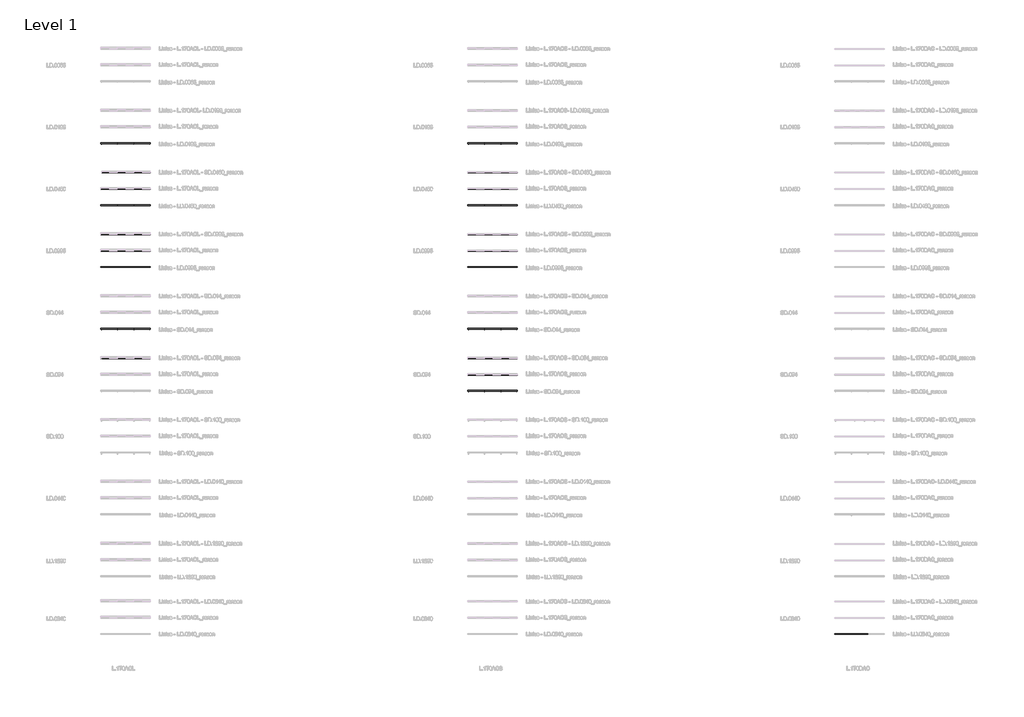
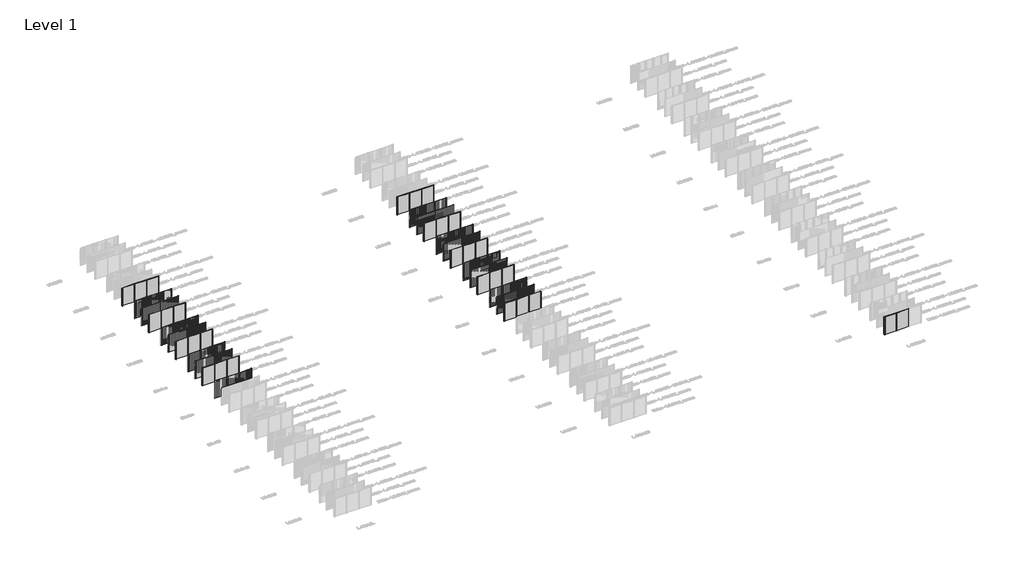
# One storey, part 2 of 121: 69 members, 60 plates.
"""IFC4 building model written with IfcOpenShell, lengths in millimetres."""

from ifc_helpers import new_model, si_unit, origin, origin_with_axes, place, context, project, spatial, polyline, outline, extrude, transform, mapped, element, save
from components import rectangular_mullion_e1f482b2, rectangular_mullion_21e3ddae, rectangular_mullion_fb497acc, rectangular_mullion_3facce28, rectangular_mullion_6cf2c509, rectangular_mullion_82152e2f, rectangular_mullion_146f339b, rectangular_mullion_aa1047c5, rectangular_mullion_c2c7736a, rectangular_mullion_35b0a916, rectangular_mullion_bd250e2e, rectangular_mullion_7b49c8f1, rectangular_mullion_2b84ad7e, rectangular_mullion_0fd695e7, rectangular_mullion_9b796d85, rectangular_mullion_dfb17e98, rectangular_mullion_aaa1fb1b, rectangular_mullion_ac71f9c1, empty_system_panel_empty_90a97279

model = new_model("IFC4")

# Units and contexts
model_context = context("Model", 3, world=origin())
ifc_project = project(units=[si_unit("LENGTHUNIT", "METRE", prefix="MILLI")], contexts=[model_context])

# Site, building, storey
site = spatial("IfcSite", under=ifc_project)
building = spatial("IfcBuilding", under=site)
storey = spatial("IfcBuildingStorey", under=building, Name="Level 1", Elevation=0.0)

# Members
placement = place(None, origin())
rectangular_mullion_shape = rectangular_mullion_e1f482b2(model_context)
element("IfcMember", 1, ObjectType="Rectangular Mullion : LD.0195_renson", at=placement, inside=storey, context=model_context, shape_type="MappedRepresentation", body=[
    mapped(rectangular_mullion_shape, transform((4466.6208097, 62481.0540136, 0.0), x_axis=(-1.0, 0.0, 0.0), y_axis=(0.0, 1.0, 0.0), z_axis=(0.0, 0.0, -1.0))),
])
element("IfcMember", 2, ObjectType="Rectangular Mullion : LD.0195_renson", at=placement, inside=storey, context=model_context, shape_type="MappedRepresentation", body=[
    mapped(rectangular_mullion_shape, transform((2466.6208097, 62481.0540136, 0.0), x_axis=(-1.0, 0.0, 0.0), y_axis=(0.0, 1.0, 0.0), z_axis=(0.0, 0.0, -1.0))),
])
element("IfcMember", 3, ObjectType="Rectangular Mullion : LD.0195_renson", at=placement, inside=storey, context=model_context, shape_type="MappedRepresentation", body=[
    mapped(rectangular_mullion_shape, transform((48966.6208097, 62481.0540136, 0.0), x_axis=(-1.0, 0.0, 0.0), y_axis=(0.0, 1.0, 0.0), z_axis=(0.0, 0.0, -1.0))),
])
element("IfcMember", 4, ObjectType="Rectangular Mullion : LD.0195_renson", at=placement, inside=storey, context=model_context, shape_type="MappedRepresentation", body=[
    mapped(rectangular_mullion_shape, transform((46966.6208097, 62481.0540136, 0.0), x_axis=(-1.0, 0.0, 0.0), y_axis=(0.0, 1.0, 0.0), z_axis=(0.0, 0.0, -1.0))),
])
rectangular_mullion_2_shape = rectangular_mullion_21e3ddae(model_context)
element("IfcMember", 5, ObjectType="Rectangular Mullion : LD.0460_renson", at=placement, inside=storey, context=model_context, shape_type="MappedRepresentation", body=[
    mapped(rectangular_mullion_2_shape, transform((4466.6208097, 58981.0540136, 0.0), x_axis=(-1.0, 0.0, 0.0), y_axis=(0.0, 1.0, 0.0), z_axis=(0.0, 0.0, -1.0))),
])
element("IfcMember", 6, ObjectType="Rectangular Mullion : LD.0460_renson", at=placement, inside=storey, context=model_context, shape_type="MappedRepresentation", body=[
    mapped(rectangular_mullion_2_shape, transform((2466.6208097, 58981.0540136, 0.0), x_axis=(-1.0, 0.0, 0.0), y_axis=(0.0, 1.0, 0.0), z_axis=(0.0, 0.0, -1.0))),
])
element("IfcMember", 7, ObjectType="Rectangular Mullion : LD.0460_renson", at=placement, inside=storey, context=model_context, shape_type="MappedRepresentation", body=[
    mapped(rectangular_mullion_2_shape, transform((4466.6208097, 54981.0540136, 0.0), x_axis=(-1.0, 0.0, 0.0), y_axis=(0.0, 1.0, 0.0), z_axis=(0.0, 0.0, -1.0))),
])
element("IfcMember", 8, ObjectType="Rectangular Mullion : LD.0460_renson", at=placement, inside=storey, context=model_context, shape_type="MappedRepresentation", body=[
    mapped(rectangular_mullion_2_shape, transform((2466.6208097, 54981.0540136, 0.0), x_axis=(-1.0, 0.0, 0.0), y_axis=(0.0, 1.0, 0.0), z_axis=(0.0, 0.0, -1.0))),
])
element("IfcMember", 9, ObjectType="Rectangular Mullion : LD.0460_renson", at=placement, inside=storey, context=model_context, shape_type="MappedRepresentation", body=[
    mapped(rectangular_mullion_2_shape, transform((48966.6208097, 58981.0540136, 0.0), x_axis=(-1.0, 0.0, 0.0), y_axis=(0.0, 1.0, 0.0), z_axis=(0.0, 0.0, -1.0))),
])
element("IfcMember", 10, ObjectType="Rectangular Mullion : LD.0460_renson", at=placement, inside=storey, context=model_context, shape_type="MappedRepresentation", body=[
    mapped(rectangular_mullion_2_shape, transform((46966.6208097, 58981.0540136, 0.0), x_axis=(-1.0, 0.0, 0.0), y_axis=(0.0, 1.0, 0.0), z_axis=(0.0, 0.0, -1.0))),
])
element("IfcMember", 11, ObjectType="Rectangular Mullion : LD.0460_renson", at=placement, inside=storey, context=model_context, shape_type="MappedRepresentation", body=[
    mapped(rectangular_mullion_2_shape, transform((48966.6208097, 54981.0540136, 0.0), x_axis=(-1.0, 0.0, 0.0), y_axis=(0.0, 1.0, 0.0), z_axis=(0.0, 0.0, -1.0))),
])
element("IfcMember", 12, ObjectType="Rectangular Mullion : LD.0460_renson", at=placement, inside=storey, context=model_context, shape_type="MappedRepresentation", body=[
    mapped(rectangular_mullion_2_shape, transform((46966.6208097, 54981.0540136, 0.0), x_axis=(-1.0, 0.0, 0.0), y_axis=(0.0, 1.0, 0.0), z_axis=(0.0, 0.0, -1.0))),
])
rectangular_mullion_3_shape = rectangular_mullion_fb497acc(model_context)
element("IfcMember", 13, ObjectType="Rectangular Mullion : LD.0995_renson", at=placement, inside=storey, context=model_context, shape_type="MappedRepresentation", body=[
    mapped(rectangular_mullion_3_shape, transform((4466.6208097, 51481.0540136, 0.0), x_axis=(-1.0, 0.0, 0.0), y_axis=(0.0, 1.0, 0.0), z_axis=(0.0, 0.0, -1.0))),
])
element("IfcMember", 14, ObjectType="Rectangular Mullion : LD.0995_renson", at=placement, inside=storey, context=model_context, shape_type="MappedRepresentation", body=[
    mapped(rectangular_mullion_3_shape, transform((2466.6208097, 51481.0540136, 0.0), x_axis=(-1.0, 0.0, 0.0), y_axis=(0.0, 1.0, 0.0), z_axis=(0.0, 0.0, -1.0))),
])
element("IfcMember", 15, ObjectType="Rectangular Mullion : LD.0995_renson", at=placement, inside=storey, context=model_context, shape_type="MappedRepresentation", body=[
    mapped(rectangular_mullion_3_shape, transform((4466.6208097, 47481.0540136, 0.0), x_axis=(-1.0, 0.0, 0.0), y_axis=(0.0, 1.0, 0.0), z_axis=(0.0, 0.0, -1.0))),
])
element("IfcMember", 16, ObjectType="Rectangular Mullion : LD.0995_renson", at=placement, inside=storey, context=model_context, shape_type="MappedRepresentation", body=[
    mapped(rectangular_mullion_3_shape, transform((2466.6208097, 47481.0540136, 0.0), x_axis=(-1.0, 0.0, 0.0), y_axis=(0.0, 1.0, 0.0), z_axis=(0.0, 0.0, -1.0))),
])
element("IfcMember", 17, ObjectType="Rectangular Mullion : LD.0995_renson", at=placement, inside=storey, context=model_context, shape_type="MappedRepresentation", body=[
    mapped(rectangular_mullion_3_shape, transform((48966.6208097, 51481.0540136, 0.0), x_axis=(-1.0, 0.0, 0.0), y_axis=(0.0, 1.0, 0.0), z_axis=(0.0, 0.0, -1.0))),
])
element("IfcMember", 18, ObjectType="Rectangular Mullion : LD.0995_renson", at=placement, inside=storey, context=model_context, shape_type="MappedRepresentation", body=[
    mapped(rectangular_mullion_3_shape, transform((46966.6208097, 51481.0540136, 0.0), x_axis=(-1.0, 0.0, 0.0), y_axis=(0.0, 1.0, 0.0), z_axis=(0.0, 0.0, -1.0))),
])
element("IfcMember", 19, ObjectType="Rectangular Mullion : LD.0995_renson", at=placement, inside=storey, context=model_context, shape_type="MappedRepresentation", body=[
    mapped(rectangular_mullion_3_shape, transform((48966.6208097, 47481.0540136, 0.0), x_axis=(-1.0, 0.0, 0.0), y_axis=(0.0, 1.0, 0.0), z_axis=(0.0, 0.0, -1.0))),
])
element("IfcMember", 20, ObjectType="Rectangular Mullion : LD.0995_renson", at=placement, inside=storey, context=model_context, shape_type="MappedRepresentation", body=[
    mapped(rectangular_mullion_3_shape, transform((46966.6208097, 47481.0540136, 0.0), x_axis=(-1.0, 0.0, 0.0), y_axis=(0.0, 1.0, 0.0), z_axis=(0.0, 0.0, -1.0))),
])
rectangular_mullion_4_shape = rectangular_mullion_3facce28(model_context)
element("IfcMember", 21, ObjectType="Rectangular Mullion : SD.014_renson", at=placement, inside=storey, context=model_context, shape_type="MappedRepresentation", body=[
    mapped(rectangular_mullion_4_shape, transform((4466.6208097, 43981.0540136, 0.0), x_axis=(-1.0, 0.0, 0.0), y_axis=(0.0, 1.0, 0.0), z_axis=(0.0, 0.0, -1.0))),
])
element("IfcMember", 22, ObjectType="Rectangular Mullion : SD.014_renson", at=placement, inside=storey, context=model_context, shape_type="MappedRepresentation", body=[
    mapped(rectangular_mullion_4_shape, transform((2466.6208097, 43981.0540136, 0.0), x_axis=(-1.0, 0.0, 0.0), y_axis=(0.0, 1.0, 0.0), z_axis=(0.0, 0.0, -1.0))),
])
element("IfcMember", 23, ObjectType="Rectangular Mullion : SD.014_renson", at=placement, inside=storey, context=model_context, shape_type="MappedRepresentation", body=[
    mapped(rectangular_mullion_4_shape, transform((4466.6208097, 39981.0540136, 0.0), x_axis=(-1.0, 0.0, 0.0), y_axis=(0.0, 1.0, 0.0), z_axis=(0.0, 0.0, -1.0))),
])
element("IfcMember", 24, ObjectType="Rectangular Mullion : SD.014_renson", at=placement, inside=storey, context=model_context, shape_type="MappedRepresentation", body=[
    mapped(rectangular_mullion_4_shape, transform((2466.6208097, 39981.0540136, 0.0), x_axis=(-1.0, 0.0, 0.0), y_axis=(0.0, 1.0, 0.0), z_axis=(0.0, 0.0, -1.0))),
])
element("IfcMember", 25, ObjectType="Rectangular Mullion : SD.014_renson", at=placement, inside=storey, context=model_context, shape_type="MappedRepresentation", body=[
    mapped(rectangular_mullion_4_shape, transform((48966.6208097, 43981.0540136, 0.0), x_axis=(-1.0, 0.0, 0.0), y_axis=(0.0, 1.0, 0.0), z_axis=(0.0, 0.0, -1.0))),
])
element("IfcMember", 26, ObjectType="Rectangular Mullion : SD.014_renson", at=placement, inside=storey, context=model_context, shape_type="MappedRepresentation", body=[
    mapped(rectangular_mullion_4_shape, transform((46966.6208097, 43981.0540136, 0.0), x_axis=(-1.0, 0.0, 0.0), y_axis=(0.0, 1.0, 0.0), z_axis=(0.0, 0.0, -1.0))),
])
element("IfcMember", 27, ObjectType="Rectangular Mullion : SD.014_renson", at=placement, inside=storey, context=model_context, shape_type="MappedRepresentation", body=[
    mapped(rectangular_mullion_4_shape, transform((48966.6208097, 39981.0540136, 0.0), x_axis=(-1.0, 0.0, 0.0), y_axis=(0.0, 1.0, 0.0), z_axis=(0.0, 0.0, -1.0))),
])
element("IfcMember", 28, ObjectType="Rectangular Mullion : SD.014_renson", at=placement, inside=storey, context=model_context, shape_type="MappedRepresentation", body=[
    mapped(rectangular_mullion_4_shape, transform((46966.6208097, 39981.0540136, 0.0), x_axis=(-1.0, 0.0, 0.0), y_axis=(0.0, 1.0, 0.0), z_axis=(0.0, 0.0, -1.0))),
])
rectangular_mullion_5_shape = rectangular_mullion_6cf2c509(model_context)
element("IfcMember", 29, ObjectType="Rectangular Mullion : SD.054_renson", at=placement, inside=storey, context=model_context, shape_type="MappedRepresentation", body=[
    mapped(rectangular_mullion_5_shape, transform((4466.6208097, 36481.0540136, 0.0), x_axis=(-1.0, 0.0, 0.0), y_axis=(0.0, 1.0, 0.0), z_axis=(0.0, 0.0, -1.0))),
])
element("IfcMember", 30, ObjectType="Rectangular Mullion : SD.054_renson", at=placement, inside=storey, context=model_context, shape_type="MappedRepresentation", body=[
    mapped(rectangular_mullion_5_shape, transform((2466.6208097, 36481.0540136, 0.0), x_axis=(-1.0, 0.0, 0.0), y_axis=(0.0, 1.0, 0.0), z_axis=(0.0, 0.0, -1.0))),
])
element("IfcMember", 31, ObjectType="Rectangular Mullion : SD.054_renson", at=placement, inside=storey, context=model_context, shape_type="MappedRepresentation", body=[
    mapped(rectangular_mullion_5_shape, transform((48966.6208097, 36481.0540136, 0.0), x_axis=(-1.0, 0.0, 0.0), y_axis=(0.0, 1.0, 0.0), z_axis=(0.0, 0.0, -1.0))),
])
element("IfcMember", 32, ObjectType="Rectangular Mullion : SD.054_renson", at=placement, inside=storey, context=model_context, shape_type="MappedRepresentation", body=[
    mapped(rectangular_mullion_5_shape, transform((46966.6208097, 36481.0540136, 0.0), x_axis=(-1.0, 0.0, 0.0), y_axis=(0.0, 1.0, 0.0), z_axis=(0.0, 0.0, -1.0))),
])
element("IfcMember", 33, ObjectType="Rectangular Mullion : SD.054_renson", at=placement, inside=storey, context=model_context, shape_type="MappedRepresentation", body=[
    mapped(rectangular_mullion_5_shape, transform((48966.6208097, 32481.0540136, 0.0), x_axis=(-1.0, 0.0, 0.0), y_axis=(0.0, 1.0, 0.0), z_axis=(0.0, 0.0, -1.0))),
])
element("IfcMember", 34, ObjectType="Rectangular Mullion : SD.054_renson", at=placement, inside=storey, context=model_context, shape_type="MappedRepresentation", body=[
    mapped(rectangular_mullion_5_shape, transform((46966.6208097, 32481.0540136, 0.0), x_axis=(-1.0, 0.0, 0.0), y_axis=(0.0, 1.0, 0.0), z_axis=(0.0, 0.0, -1.0))),
])
rectangular_mullion_6_shape = rectangular_mullion_82152e2f(model_context)
element("IfcMember", 35, ObjectType="Rectangular Mullion : LD.0240_renson", at=placement, inside=storey, context=model_context, shape_type="MappedRepresentation", body=[
    mapped(rectangular_mullion_6_shape, transform((91466.6208098, 2987.0270068, 0.0), x_axis=(-1.0, 0.0, 0.0), y_axis=(0.0, 1.0, 0.0), z_axis=(0.0, 0.0, -1.0))),
])
rectangular_mullion_7_shape = rectangular_mullion_146f339b(model_context)
element("IfcMember", 36, ObjectType="Rectangular Mullion : LD.0195 - left_renson", at=placement, inside=storey, context=model_context, shape_type="MappedRepresentation", body=[
    mapped(rectangular_mullion_7_shape, transform((466.6208097, 62481.0540136, 0.0), x_axis=(-1.0, 0.0, 0.0), y_axis=(0.0, 1.0, 0.0), z_axis=(0.0, 0.0, -1.0))),
])
element("IfcMember", 37, ObjectType="Rectangular Mullion : LD.0195 - left_renson", at=placement, inside=storey, context=model_context, shape_type="MappedRepresentation", body=[
    mapped(rectangular_mullion_7_shape, transform((44966.6208097, 62481.0540136, 0.0), x_axis=(-1.0, 0.0, 0.0), y_axis=(0.0, 1.0, 0.0), z_axis=(0.0, 0.0, -1.0))),
])
rectangular_mullion_8_shape = rectangular_mullion_aa1047c5(model_context)
element("IfcMember", 38, ObjectType="Rectangular Mullion : LD.0195 - right_renson", at=placement, inside=storey, context=model_context, shape_type="MappedRepresentation", body=[
    mapped(rectangular_mullion_8_shape, transform((6466.6208097, 62481.0540136, 3000.0), x_axis=(1.0, 0.0, 0.0), y_axis=(0.0, 1.0, 0.0), z_axis=(0.0, 0.0, 1.0))),
])
element("IfcMember", 39, ObjectType="Rectangular Mullion : LD.0195 - right_renson", at=placement, inside=storey, context=model_context, shape_type="MappedRepresentation", body=[
    mapped(rectangular_mullion_8_shape, transform((50966.6208097, 62481.0540136, 3000.0), x_axis=(1.0, 0.0, 0.0), y_axis=(0.0, 1.0, 0.0), z_axis=(0.0, 0.0, 1.0))),
])
rectangular_mullion_9_shape = rectangular_mullion_c2c7736a(model_context)
element("IfcMember", 40, ObjectType="Rectangular Mullion : LD.0460 - left_renson", at=placement, inside=storey, context=model_context, shape_type="MappedRepresentation", body=[
    mapped(rectangular_mullion_9_shape, transform((466.6208097, 54981.0540136, 0.0), x_axis=(-1.0, 0.0, 0.0), y_axis=(0.0, 1.0, 0.0), z_axis=(0.0, 0.0, -1.0))),
])
element("IfcMember", 41, ObjectType="Rectangular Mullion : LD.0460 - left_renson", at=placement, inside=storey, context=model_context, shape_type="MappedRepresentation", body=[
    mapped(rectangular_mullion_9_shape, transform((44966.6208097, 58981.0540136, 0.0), x_axis=(-1.0, 0.0, 0.0), y_axis=(0.0, 1.0, 0.0), z_axis=(0.0, 0.0, -1.0))),
])
element("IfcMember", 42, ObjectType="Rectangular Mullion : LD.0460 - left_renson", at=placement, inside=storey, context=model_context, shape_type="MappedRepresentation", body=[
    mapped(rectangular_mullion_9_shape, transform((44966.6208097, 54981.0540136, 0.0), x_axis=(-1.0, 0.0, 0.0), y_axis=(0.0, 1.0, 0.0), z_axis=(0.0, 0.0, -1.0))),
])
rectangular_mullion_10_shape = rectangular_mullion_35b0a916(model_context)
element("IfcMember", 43, ObjectType="Rectangular Mullion : LD.0460 - right_renson", at=placement, inside=storey, context=model_context, shape_type="MappedRepresentation", body=[
    mapped(rectangular_mullion_10_shape, transform((6466.6208097, 58981.0540136, 3000.0), x_axis=(1.0, 0.0, 0.0), y_axis=(0.0, 1.0, 0.0), z_axis=(0.0, 0.0, 1.0))),
])
element("IfcMember", 44, ObjectType="Rectangular Mullion : LD.0460 - right_renson", at=placement, inside=storey, context=model_context, shape_type="MappedRepresentation", body=[
    mapped(rectangular_mullion_10_shape, transform((6466.6208097, 54981.0540136, 3000.0), x_axis=(1.0, 0.0, 0.0), y_axis=(0.0, 1.0, 0.0), z_axis=(0.0, 0.0, 1.0))),
])
element("IfcMember", 45, ObjectType="Rectangular Mullion : LD.0460 - right_renson", at=placement, inside=storey, context=model_context, shape_type="MappedRepresentation", body=[
    mapped(rectangular_mullion_10_shape, transform((50966.6208097, 58981.0540136, 3000.0), x_axis=(1.0, 0.0, 0.0), y_axis=(0.0, 1.0, 0.0), z_axis=(0.0, 0.0, 1.0))),
])
element("IfcMember", 46, ObjectType="Rectangular Mullion : LD.0460 - right_renson", at=placement, inside=storey, context=model_context, shape_type="MappedRepresentation", body=[
    mapped(rectangular_mullion_10_shape, transform((50966.6208097, 54981.0540136, 3000.0), x_axis=(1.0, 0.0, 0.0), y_axis=(0.0, 1.0, 0.0), z_axis=(0.0, 0.0, 1.0))),
])
rectangular_mullion_11_shape = rectangular_mullion_bd250e2e(model_context)
element("IfcMember", 47, ObjectType="Rectangular Mullion : LD.0995 - left_renson", at=placement, inside=storey, context=model_context, shape_type="MappedRepresentation", body=[
    mapped(rectangular_mullion_11_shape, transform((466.6208097, 51481.0540136, 0.0), x_axis=(-1.0, 0.0, 0.0), y_axis=(0.0, 1.0, 0.0), z_axis=(0.0, 0.0, -1.0))),
])
element("IfcMember", 48, ObjectType="Rectangular Mullion : LD.0995 - left_renson", at=placement, inside=storey, context=model_context, shape_type="MappedRepresentation", body=[
    mapped(rectangular_mullion_11_shape, transform((466.6208097, 47481.0540136, 0.0), x_axis=(-1.0, 0.0, 0.0), y_axis=(0.0, 1.0, 0.0), z_axis=(0.0, 0.0, -1.0))),
])
element("IfcMember", 49, ObjectType="Rectangular Mullion : LD.0995 - left_renson", at=placement, inside=storey, context=model_context, shape_type="MappedRepresentation", body=[
    mapped(rectangular_mullion_11_shape, transform((44966.6208097, 51481.0540136, 0.0), x_axis=(-1.0, 0.0, 0.0), y_axis=(0.0, 1.0, 0.0), z_axis=(0.0, 0.0, -1.0))),
])
element("IfcMember", 50, ObjectType="Rectangular Mullion : LD.0995 - left_renson", at=placement, inside=storey, context=model_context, shape_type="MappedRepresentation", body=[
    mapped(rectangular_mullion_11_shape, transform((44966.6208097, 47481.0540136, 0.0), x_axis=(-1.0, 0.0, 0.0), y_axis=(0.0, 1.0, 0.0), z_axis=(0.0, 0.0, -1.0))),
])
rectangular_mullion_12_shape = rectangular_mullion_7b49c8f1(model_context)
element("IfcMember", 51, ObjectType="Rectangular Mullion : LD.0995 - right_renson", at=placement, inside=storey, context=model_context, shape_type="MappedRepresentation", body=[
    mapped(rectangular_mullion_12_shape, transform((6466.6208097, 51481.0540136, 3000.0), x_axis=(1.0, 0.0, 0.0), y_axis=(0.0, 1.0, 0.0), z_axis=(0.0, 0.0, 1.0))),
])
element("IfcMember", 52, ObjectType="Rectangular Mullion : LD.0995 - right_renson", at=placement, inside=storey, context=model_context, shape_type="MappedRepresentation", body=[
    mapped(rectangular_mullion_12_shape, transform((6466.6208097, 47481.0540136, 3000.0), x_axis=(1.0, 0.0, 0.0), y_axis=(0.0, 1.0, 0.0), z_axis=(0.0, 0.0, 1.0))),
])
element("IfcMember", 53, ObjectType="Rectangular Mullion : LD.0995 - right_renson", at=placement, inside=storey, context=model_context, shape_type="MappedRepresentation", body=[
    mapped(rectangular_mullion_12_shape, transform((50966.6208097, 51481.0540136, 3000.0), x_axis=(1.0, 0.0, 0.0), y_axis=(0.0, 1.0, 0.0), z_axis=(0.0, 0.0, 1.0))),
])
element("IfcMember", 54, ObjectType="Rectangular Mullion : LD.0995 - right_renson", at=placement, inside=storey, context=model_context, shape_type="MappedRepresentation", body=[
    mapped(rectangular_mullion_12_shape, transform((50966.6208097, 47481.0540136, 3000.0), x_axis=(1.0, 0.0, 0.0), y_axis=(0.0, 1.0, 0.0), z_axis=(0.0, 0.0, 1.0))),
])
rectangular_mullion_13_shape = rectangular_mullion_2b84ad7e(model_context)
element("IfcMember", 55, ObjectType="Rectangular Mullion : SD.014 - left_renson", at=placement, inside=storey, context=model_context, shape_type="MappedRepresentation", body=[
    mapped(rectangular_mullion_13_shape, transform((466.6208097, 43981.0540136, 0.0), x_axis=(-1.0, 0.0, 0.0), y_axis=(0.0, 1.0, 0.0), z_axis=(0.0, 0.0, -1.0))),
])
element("IfcMember", 56, ObjectType="Rectangular Mullion : SD.014 - left_renson", at=placement, inside=storey, context=model_context, shape_type="MappedRepresentation", body=[
    mapped(rectangular_mullion_13_shape, transform((466.6208097, 39981.0540136, 0.0), x_axis=(-1.0, 0.0, 0.0), y_axis=(0.0, 1.0, 0.0), z_axis=(0.0, 0.0, -1.0))),
])
element("IfcMember", 57, ObjectType="Rectangular Mullion : SD.014 - left_renson", at=placement, inside=storey, context=model_context, shape_type="MappedRepresentation", body=[
    mapped(rectangular_mullion_13_shape, transform((44966.6208097, 43981.0540136, 0.0), x_axis=(-1.0, 0.0, 0.0), y_axis=(0.0, 1.0, 0.0), z_axis=(0.0, 0.0, -1.0))),
])
element("IfcMember", 58, ObjectType="Rectangular Mullion : SD.014 - left_renson", at=placement, inside=storey, context=model_context, shape_type="MappedRepresentation", body=[
    mapped(rectangular_mullion_13_shape, transform((44966.6208097, 39981.0540136, 0.0), x_axis=(-1.0, 0.0, 0.0), y_axis=(0.0, 1.0, 0.0), z_axis=(0.0, 0.0, -1.0))),
])
rectangular_mullion_14_shape = rectangular_mullion_0fd695e7(model_context)
element("IfcMember", 59, ObjectType="Rectangular Mullion : SD.014 - right_renson", at=placement, inside=storey, context=model_context, shape_type="MappedRepresentation", body=[
    mapped(rectangular_mullion_14_shape, transform((6466.6208097, 43981.0540136, 3000.0), x_axis=(1.0, 0.0, 0.0), y_axis=(0.0, 1.0, 0.0), z_axis=(0.0, 0.0, 1.0))),
])
element("IfcMember", 60, ObjectType="Rectangular Mullion : SD.014 - right_renson", at=placement, inside=storey, context=model_context, shape_type="MappedRepresentation", body=[
    mapped(rectangular_mullion_14_shape, transform((6466.6208097, 39981.0540136, 3000.0), x_axis=(1.0, 0.0, 0.0), y_axis=(0.0, 1.0, 0.0), z_axis=(0.0, 0.0, 1.0))),
])
element("IfcMember", 61, ObjectType="Rectangular Mullion : SD.014 - right_renson", at=placement, inside=storey, context=model_context, shape_type="MappedRepresentation", body=[
    mapped(rectangular_mullion_14_shape, transform((50966.6208097, 43981.0540136, 3000.0), x_axis=(1.0, 0.0, 0.0), y_axis=(0.0, 1.0, 0.0), z_axis=(0.0, 0.0, 1.0))),
])
element("IfcMember", 62, ObjectType="Rectangular Mullion : SD.014 - right_renson", at=placement, inside=storey, context=model_context, shape_type="MappedRepresentation", body=[
    mapped(rectangular_mullion_14_shape, transform((50966.6208097, 39981.0540136, 3000.0), x_axis=(1.0, 0.0, 0.0), y_axis=(0.0, 1.0, 0.0), z_axis=(0.0, 0.0, 1.0))),
])
rectangular_mullion_15_shape = rectangular_mullion_9b796d85(model_context)
element("IfcMember", 63, ObjectType="Rectangular Mullion : SD.054 - left_renson", at=placement, inside=storey, context=model_context, shape_type="MappedRepresentation", body=[
    mapped(rectangular_mullion_15_shape, transform((44966.6208097, 36481.0540136, 0.0), x_axis=(-1.0, 0.0, 0.0), y_axis=(0.0, 1.0, 0.0), z_axis=(0.0, 0.0, -1.0))),
])
element("IfcMember", 64, ObjectType="Rectangular Mullion : SD.054 - left_renson", at=placement, inside=storey, context=model_context, shape_type="MappedRepresentation", body=[
    mapped(rectangular_mullion_15_shape, transform((44966.6208097, 32481.0540136, 0.0), x_axis=(-1.0, 0.0, 0.0), y_axis=(0.0, 1.0, 0.0), z_axis=(0.0, 0.0, -1.0))),
])
rectangular_mullion_16_shape = rectangular_mullion_dfb17e98(model_context)
element("IfcMember", 65, ObjectType="Rectangular Mullion : SD.054 - right_renson", at=placement, inside=storey, context=model_context, shape_type="MappedRepresentation", body=[
    mapped(rectangular_mullion_16_shape, transform((6466.6208097, 36481.0540136, 3000.0), x_axis=(1.0, 0.0, 0.0), y_axis=(0.0, 1.0, 0.0), z_axis=(0.0, 0.0, 1.0))),
])
element("IfcMember", 66, ObjectType="Rectangular Mullion : SD.054 - right_renson", at=placement, inside=storey, context=model_context, shape_type="MappedRepresentation", body=[
    mapped(rectangular_mullion_16_shape, transform((50966.6208097, 36481.0540136, 3000.0), x_axis=(1.0, 0.0, 0.0), y_axis=(0.0, 1.0, 0.0), z_axis=(0.0, 0.0, 1.0))),
])
element("IfcMember", 67, ObjectType="Rectangular Mullion : SD.054 - right_renson", at=placement, inside=storey, context=model_context, shape_type="MappedRepresentation", body=[
    mapped(rectangular_mullion_16_shape, transform((50966.6208097, 32481.0540136, 3000.0), x_axis=(1.0, 0.0, 0.0), y_axis=(0.0, 1.0, 0.0), z_axis=(0.0, 0.0, 1.0))),
])
rectangular_mullion_17_shape = rectangular_mullion_aaa1fb1b(model_context)
element("IfcMember", 68, ObjectType="Rectangular Mullion : LD.0240 - left_renson", at=placement, inside=storey, context=model_context, shape_type="MappedRepresentation", body=[
    mapped(rectangular_mullion_17_shape, transform((89466.6208097, 2987.0270068, 0.0), x_axis=(-1.0, 0.0, 0.0), y_axis=(0.0, 1.0, 0.0), z_axis=(0.0, 0.0, -1.0))),
])
rectangular_mullion_18_shape = rectangular_mullion_ac71f9c1(model_context)
element("IfcMember", 69, ObjectType="Rectangular Mullion : LD.0460 - right_renson", at=placement, inside=storey, context=model_context, shape_type="MappedRepresentation", body=[
    mapped(rectangular_mullion_18_shape, transform((466.6208097, 58981.0540136, 0.0), x_axis=(-1.0, 0.0, 0.0), y_axis=(0.0, 1.0, 0.0), z_axis=(0.0, 0.0, -1.0))),
])

# Plates
element("IfcPlate", 70, ObjectType="Linius - L.170ACL_renson", at=placement, inside=storey, context=model_context, shape_type="SweptSolid", body=[
    extrude(outline(polyline([(552.6208097, 58982.0540136), (2466.6208097, 58982.0540136), (2466.6208097, 58980.0540136), (552.6208097, 58980.0540136), (552.6208097, 58982.0540136)])), origin_with_axes(), (0.0, 0.0, 1.0), 3000.0),
])
element("IfcPlate", 71, ObjectType="Linius - L.170ACL_renson", at=placement, inside=storey, context=model_context, shape_type="SweptSolid", body=[
    extrude(outline(polyline([(2466.6208097, 58982.0540136), (4466.6208097, 58982.0540136), (4466.6208097, 58980.0540136), (2466.6208097, 58980.0540136), (2466.6208097, 58982.0540136)])), origin_with_axes(), (0.0, 0.0, 1.0), 3000.0),
])
element("IfcPlate", 72, ObjectType="Linius - L.170ACL_renson", at=placement, inside=storey, context=model_context, shape_type="SweptSolid", body=[
    extrude(outline(polyline([(4466.6208097, 58982.0540136), (6466.6208097, 58982.0540136), (6466.6208097, 58980.0540136), (4466.6208097, 58980.0540136), (4466.6208097, 58982.0540136)])), origin_with_axes(), (0.0, 0.0, 1.0), 3000.0),
])
element("IfcPlate", 73, ObjectType="Linius - L.170ACL_renson", at=placement, inside=storey, context=model_context, shape_type="SweptSolid", body=[
    extrude(outline(polyline([(466.6208097, 56982.0540136), (6466.6208097, 56982.0540136), (6466.6208097, 56980.0540136), (466.6208097, 56980.0540136), (466.6208097, 56982.0540136)])), origin_with_axes(), (0.0, 0.0, 1.0), 3000.0),
])
element("IfcPlate", 74, ObjectType="Linius - L.170ACL_renson", at=placement, inside=storey, context=model_context, shape_type="SweptSolid", body=[
    extrude(outline(polyline([(466.6208097, 51482.0540136), (2466.6208097, 51482.0540136), (2466.6208097, 51480.0540136), (466.6208097, 51480.0540136), (466.6208097, 51482.0540136)])), origin_with_axes(), (0.0, 0.0, 1.0), 3000.0),
])
element("IfcPlate", 75, ObjectType="Linius - L.170ACL_renson", at=placement, inside=storey, context=model_context, shape_type="SweptSolid", body=[
    extrude(outline(polyline([(2466.6208097, 51482.0540136), (4466.6208097, 51482.0540136), (4466.6208097, 51480.0540136), (2466.6208097, 51480.0540136), (2466.6208097, 51482.0540136)])), origin_with_axes(), (0.0, 0.0, 1.0), 3000.0),
])
element("IfcPlate", 76, ObjectType="Linius - L.170ACL_renson", at=placement, inside=storey, context=model_context, shape_type="SweptSolid", body=[
    extrude(outline(polyline([(4466.6208097, 51482.0540136), (6466.6208097, 51482.0540136), (6466.6208097, 51480.0540136), (4466.6208097, 51480.0540136), (4466.6208097, 51482.0540136)])), origin_with_axes(), (0.0, 0.0, 1.0), 3000.0),
])
element("IfcPlate", 77, ObjectType="Linius - L.170ACL_renson", at=placement, inside=storey, context=model_context, shape_type="SweptSolid", body=[
    extrude(outline(polyline([(466.6208097, 49482.0540136), (6466.6208097, 49482.0540136), (6466.6208097, 49480.0540136), (466.6208097, 49480.0540136), (466.6208097, 49482.0540136)])), origin_with_axes(), (0.0, 0.0, 1.0), 3000.0),
])
element("IfcPlate", 78, ObjectType="Linius - L.170ACL_renson", at=placement, inside=storey, context=model_context, shape_type="SweptSolid", body=[
    extrude(outline(polyline([(466.6208097, 43982.0540136), (2466.6208097, 43982.0540136), (2466.6208097, 43980.0540136), (466.6208097, 43980.0540136), (466.6208097, 43982.0540136)])), origin_with_axes(), (0.0, 0.0, 1.0), 3000.0),
])
element("IfcPlate", 79, ObjectType="Linius - L.170ACL_renson", at=placement, inside=storey, context=model_context, shape_type="SweptSolid", body=[
    extrude(outline(polyline([(2466.6208097, 43982.0540136), (4466.6208097, 43982.0540136), (4466.6208097, 43980.0540136), (2466.6208097, 43980.0540136), (2466.6208097, 43982.0540136)])), origin_with_axes(), (0.0, 0.0, 1.0), 3000.0),
])
element("IfcPlate", 80, ObjectType="Linius - L.170ACL_renson", at=placement, inside=storey, context=model_context, shape_type="SweptSolid", body=[
    extrude(outline(polyline([(4466.6208097, 43982.0540136), (6466.6208097, 43982.0540136), (6466.6208097, 43980.0540136), (4466.6208097, 43980.0540136), (4466.6208097, 43982.0540136)])), origin_with_axes(), (0.0, 0.0, 1.0), 3000.0),
])
element("IfcPlate", 81, ObjectType="Linius - L.170ACL_renson", at=placement, inside=storey, context=model_context, shape_type="SweptSolid", body=[
    extrude(outline(polyline([(466.6208097, 41982.0540136), (6466.6208097, 41982.0540136), (6466.6208097, 41980.0540136), (466.6208097, 41980.0540136), (466.6208097, 41982.0540136)])), origin_with_axes(), (0.0, 0.0, 1.0), 3000.0),
])
element("IfcPlate", 82, ObjectType="Linius - L.170ACL_renson", at=placement, inside=storey, context=model_context, shape_type="SweptSolid", body=[
    extrude(outline(polyline([(466.6208097, 36482.0540136), (2466.6208097, 36482.0540136), (2466.6208097, 36480.0540136), (466.6208097, 36480.0540136), (466.6208097, 36482.0540136)])), origin_with_axes(), (0.0, 0.0, 1.0), 3000.0),
])
element("IfcPlate", 83, ObjectType="Linius - L.170ACL_renson", at=placement, inside=storey, context=model_context, shape_type="SweptSolid", body=[
    extrude(outline(polyline([(2466.6208097, 36482.0540136), (4466.6208097, 36482.0540136), (4466.6208097, 36480.0540136), (2466.6208097, 36480.0540136), (2466.6208097, 36482.0540136)])), origin_with_axes(), (0.0, 0.0, 1.0), 3000.0),
])
element("IfcPlate", 84, ObjectType="Linius - L.170ACL_renson", at=placement, inside=storey, context=model_context, shape_type="SweptSolid", body=[
    extrude(outline(polyline([(4466.6208097, 36482.0540136), (6466.6208097, 36482.0540136), (6466.6208097, 36480.0540136), (4466.6208097, 36480.0540136), (4466.6208097, 36482.0540136)])), origin_with_axes(), (0.0, 0.0, 1.0), 3000.0),
])
element("IfcPlate", 85, ObjectType="Linius - L.170ACS_renson", at=placement, inside=storey, context=model_context, shape_type="SweptSolid", body=[
    extrude(outline(polyline([(44966.6208097, 58982.0540136), (46966.6208097, 58982.0540136), (46966.6208097, 58980.0540136), (44966.6208097, 58980.0540136), (44966.6208097, 58982.0540136)])), origin_with_axes(), (0.0, 0.0, 1.0), 3000.0),
])
element("IfcPlate", 86, ObjectType="Linius - L.170ACS_renson", at=placement, inside=storey, context=model_context, shape_type="SweptSolid", body=[
    extrude(outline(polyline([(46966.6208097, 58982.0540136), (48966.6208097, 58982.0540136), (48966.6208097, 58980.0540136), (46966.6208097, 58980.0540136), (46966.6208097, 58982.0540136)])), origin_with_axes(), (0.0, 0.0, 1.0), 3000.0),
])
element("IfcPlate", 87, ObjectType="Linius - L.170ACS_renson", at=placement, inside=storey, context=model_context, shape_type="SweptSolid", body=[
    extrude(outline(polyline([(48966.6208097, 58982.0540136), (50966.6208097, 58982.0540136), (50966.6208097, 58980.0540136), (48966.6208097, 58980.0540136), (48966.6208097, 58982.0540136)])), origin_with_axes(), (0.0, 0.0, 1.0), 3000.0),
])
element("IfcPlate", 88, ObjectType="Linius - L.170ACS_renson", at=placement, inside=storey, context=model_context, shape_type="SweptSolid", body=[
    extrude(outline(polyline([(44966.6208097, 56982.0540136), (50966.6208097, 56982.0540136), (50966.6208097, 56980.0540136), (44966.6208097, 56980.0540136), (44966.6208097, 56982.0540136)])), origin_with_axes(), (0.0, 0.0, 1.0), 3000.0),
])
element("IfcPlate", 89, ObjectType="Linius - L.170ACS_renson", at=placement, inside=storey, context=model_context, shape_type="SweptSolid", body=[
    extrude(outline(polyline([(44966.6208097, 51482.0540136), (46966.6208097, 51482.0540136), (46966.6208097, 51480.0540136), (44966.6208097, 51480.0540136), (44966.6208097, 51482.0540136)])), origin_with_axes(), (0.0, 0.0, 1.0), 3000.0),
])
element("IfcPlate", 90, ObjectType="Linius - L.170ACS_renson", at=placement, inside=storey, context=model_context, shape_type="SweptSolid", body=[
    extrude(outline(polyline([(46966.6208097, 51482.0540136), (48966.6208097, 51482.0540136), (48966.6208097, 51480.0540136), (46966.6208097, 51480.0540136), (46966.6208097, 51482.0540136)])), origin_with_axes(), (0.0, 0.0, 1.0), 3000.0),
])
element("IfcPlate", 91, ObjectType="Linius - L.170ACS_renson", at=placement, inside=storey, context=model_context, shape_type="SweptSolid", body=[
    extrude(outline(polyline([(48966.6208097, 51482.0540136), (50966.6208097, 51482.0540136), (50966.6208097, 51480.0540136), (48966.6208097, 51480.0540136), (48966.6208097, 51482.0540136)])), origin_with_axes(), (0.0, 0.0, 1.0), 3000.0),
])
element("IfcPlate", 92, ObjectType="Linius - L.170ACS_renson", at=placement, inside=storey, context=model_context, shape_type="SweptSolid", body=[
    extrude(outline(polyline([(44966.6208097, 49482.0540136), (50966.6208097, 49482.0540136), (50966.6208097, 49480.0540136), (44966.6208097, 49480.0540136), (44966.6208097, 49482.0540136)])), origin_with_axes(), (0.0, 0.0, 1.0), 3000.0),
])
element("IfcPlate", 93, ObjectType="Linius - L.170ACS_renson", at=placement, inside=storey, context=model_context, shape_type="SweptSolid", body=[
    extrude(outline(polyline([(44966.6208097, 43982.0540136), (46966.6208097, 43982.0540136), (46966.6208097, 43980.0540136), (44966.6208097, 43980.0540136), (44966.6208097, 43982.0540136)])), origin_with_axes(), (0.0, 0.0, 1.0), 3000.0),
])
element("IfcPlate", 94, ObjectType="Linius - L.170ACS_renson", at=placement, inside=storey, context=model_context, shape_type="SweptSolid", body=[
    extrude(outline(polyline([(46966.6208097, 43982.0540136), (48966.6208097, 43982.0540136), (48966.6208097, 43980.0540136), (46966.6208097, 43980.0540136), (46966.6208097, 43982.0540136)])), origin_with_axes(), (0.0, 0.0, 1.0), 3000.0),
])
element("IfcPlate", 95, ObjectType="Linius - L.170ACS_renson", at=placement, inside=storey, context=model_context, shape_type="SweptSolid", body=[
    extrude(outline(polyline([(48966.6208097, 43982.0540136), (50966.6208097, 43982.0540136), (50966.6208097, 43980.0540136), (48966.6208097, 43980.0540136), (48966.6208097, 43982.0540136)])), origin_with_axes(), (0.0, 0.0, 1.0), 3000.0),
])
element("IfcPlate", 96, ObjectType="Linius - L.170ACS_renson", at=placement, inside=storey, context=model_context, shape_type="SweptSolid", body=[
    extrude(outline(polyline([(44966.6208097, 41982.0540136), (50966.6208097, 41982.0540136), (50966.6208097, 41980.0540136), (44966.6208097, 41980.0540136), (44966.6208097, 41982.0540136)])), origin_with_axes(), (0.0, 0.0, 1.0), 3000.0),
])
element("IfcPlate", 97, ObjectType="Linius - L.170ACS_renson", at=placement, inside=storey, context=model_context, shape_type="SweptSolid", body=[
    extrude(outline(polyline([(44966.6208097, 36482.0540136), (46966.6208097, 36482.0540136), (46966.6208097, 36480.0540136), (44966.6208097, 36480.0540136), (44966.6208097, 36482.0540136)])), origin_with_axes(), (0.0, 0.0, 1.0), 3000.0),
])
element("IfcPlate", 98, ObjectType="Linius - L.170ACS_renson", at=placement, inside=storey, context=model_context, shape_type="SweptSolid", body=[
    extrude(outline(polyline([(46966.6208097, 36482.0540136), (48966.6208097, 36482.0540136), (48966.6208097, 36480.0540136), (46966.6208097, 36480.0540136), (46966.6208097, 36482.0540136)])), origin_with_axes(), (0.0, 0.0, 1.0), 3000.0),
])
element("IfcPlate", 99, ObjectType="Linius - L.170ACS_renson", at=placement, inside=storey, context=model_context, shape_type="SweptSolid", body=[
    extrude(outline(polyline([(48966.6208097, 36482.0540136), (50966.6208097, 36482.0540136), (50966.6208097, 36480.0540136), (48966.6208097, 36480.0540136), (48966.6208097, 36482.0540136)])), origin_with_axes(), (0.0, 0.0, 1.0), 3000.0),
])
element("IfcPlate", 100, ObjectType="Linius - L.170ACS_renson", at=placement, inside=storey, context=model_context, shape_type="SweptSolid", body=[
    extrude(outline(polyline([(44966.6208097, 34482.0540136), (50966.6208097, 34482.0540136), (50966.6208097, 34480.0540136), (44966.6208097, 34480.0540136), (44966.6208097, 34482.0540136)])), origin_with_axes(), (0.0, 0.0, 1.0), 3000.0),
])
empty_system_panel_empty_shape = empty_system_panel_empty_90a97279(model_context)
element("IfcPlate", 101, ObjectType="Empty System Panel : Empty", at=placement, inside=storey, context=model_context, shape_type="MappedRepresentation", body=[
    mapped(empty_system_panel_empty_shape, transform((5466.6208097, 62481.0540136, 0.0), x_axis=(-1.0, 0.0, 0.0), y_axis=(0.0, -1.0, 0.0), z_axis=(0.0, 0.0, 1.0))),
])
element("IfcPlate", 102, ObjectType="Empty System Panel : Empty", at=placement, inside=storey, context=model_context, shape_type="MappedRepresentation", body=[
    mapped(empty_system_panel_empty_shape, transform((5466.6208097, 54981.0540136, 0.0), x_axis=(-1.0, 0.0, 0.0), y_axis=(0.0, -1.0, 0.0), z_axis=(0.0, 0.0, 1.0))),
])
element("IfcPlate", 103, ObjectType="Empty System Panel : Empty", at=placement, inside=storey, context=model_context, shape_type="MappedRepresentation", body=[
    mapped(empty_system_panel_empty_shape, transform((5466.6208097, 47481.0540136, 0.0), x_axis=(-1.0, 0.0, 0.0), y_axis=(0.0, -1.0, 0.0), z_axis=(0.0, 0.0, 1.0))),
])
element("IfcPlate", 104, ObjectType="Empty System Panel : Empty", at=placement, inside=storey, context=model_context, shape_type="MappedRepresentation", body=[
    mapped(empty_system_panel_empty_shape, transform((5466.6208097, 39981.0540136, 0.0), x_axis=(-1.0, 0.0, 0.0), y_axis=(0.0, -1.0, 0.0), z_axis=(0.0, 0.0, 1.0))),
])
element("IfcPlate", 105, ObjectType="Empty System Panel : Empty", at=placement, inside=storey, context=model_context, shape_type="MappedRepresentation", body=[
    mapped(empty_system_panel_empty_shape, transform((3466.6208097, 62481.0540136, 0.0), x_axis=(-1.0, 0.0, 0.0), y_axis=(0.0, -1.0, 0.0), z_axis=(0.0, 0.0, 1.0))),
])
element("IfcPlate", 106, ObjectType="Empty System Panel : Empty", at=placement, inside=storey, context=model_context, shape_type="MappedRepresentation", body=[
    mapped(empty_system_panel_empty_shape, transform((1466.6208097, 62481.0540136, 0.0), x_axis=(-1.0, 0.0, 0.0), y_axis=(0.0, -1.0, 0.0), z_axis=(0.0, 0.0, 1.0))),
])
element("IfcPlate", 107, ObjectType="Empty System Panel : Empty", at=placement, inside=storey, context=model_context, shape_type="MappedRepresentation", body=[
    mapped(empty_system_panel_empty_shape, transform((3466.6208097, 54981.0540136, 0.0), x_axis=(-1.0, 0.0, 0.0), y_axis=(0.0, -1.0, 0.0), z_axis=(0.0, 0.0, 1.0))),
])
element("IfcPlate", 108, ObjectType="Empty System Panel : Empty", at=placement, inside=storey, context=model_context, shape_type="MappedRepresentation", body=[
    mapped(empty_system_panel_empty_shape, transform((1466.6208097, 54981.0540136, 0.0), x_axis=(-1.0, 0.0, 0.0), y_axis=(0.0, -1.0, 0.0), z_axis=(0.0, 0.0, 1.0))),
])
element("IfcPlate", 109, ObjectType="Empty System Panel : Empty", at=placement, inside=storey, context=model_context, shape_type="MappedRepresentation", body=[
    mapped(empty_system_panel_empty_shape, transform((3466.6208097, 47481.0540136, 0.0), x_axis=(-1.0, 0.0, 0.0), y_axis=(0.0, -1.0, 0.0), z_axis=(0.0, 0.0, 1.0))),
])
element("IfcPlate", 110, ObjectType="Empty System Panel : Empty", at=placement, inside=storey, context=model_context, shape_type="MappedRepresentation", body=[
    mapped(empty_system_panel_empty_shape, transform((1466.6208097, 47481.0540136, 0.0), x_axis=(-1.0, 0.0, 0.0), y_axis=(0.0, -1.0, 0.0), z_axis=(0.0, 0.0, 1.0))),
])
element("IfcPlate", 111, ObjectType="Empty System Panel : Empty", at=placement, inside=storey, context=model_context, shape_type="MappedRepresentation", body=[
    mapped(empty_system_panel_empty_shape, transform((3466.6208097, 39981.0540136, 0.0), x_axis=(-1.0, 0.0, 0.0), y_axis=(0.0, -1.0, 0.0), z_axis=(0.0, 0.0, 1.0))),
])
element("IfcPlate", 112, ObjectType="Empty System Panel : Empty", at=placement, inside=storey, context=model_context, shape_type="MappedRepresentation", body=[
    mapped(empty_system_panel_empty_shape, transform((1466.6208097, 39981.0540136, 0.0), x_axis=(-1.0, 0.0, 0.0), y_axis=(0.0, -1.0, 0.0), z_axis=(0.0, 0.0, 1.0))),
])
element("IfcPlate", 113, ObjectType="Empty System Panel : Empty", at=placement, inside=storey, context=model_context, shape_type="MappedRepresentation", body=[
    mapped(empty_system_panel_empty_shape, transform((49966.6208097, 62481.0540136, 0.0), x_axis=(-1.0, 0.0, 0.0), y_axis=(0.0, -1.0, 0.0), z_axis=(0.0, 0.0, 1.0))),
])
element("IfcPlate", 114, ObjectType="Empty System Panel : Empty", at=placement, inside=storey, context=model_context, shape_type="MappedRepresentation", body=[
    mapped(empty_system_panel_empty_shape, transform((49966.6208097, 54981.0540136, 0.0), x_axis=(-1.0, 0.0, 0.0), y_axis=(0.0, -1.0, 0.0), z_axis=(0.0, 0.0, 1.0))),
])
element("IfcPlate", 115, ObjectType="Empty System Panel : Empty", at=placement, inside=storey, context=model_context, shape_type="MappedRepresentation", body=[
    mapped(empty_system_panel_empty_shape, transform((49966.6208097, 47481.0540136, 0.0), x_axis=(-1.0, 0.0, 0.0), y_axis=(0.0, -1.0, 0.0), z_axis=(0.0, 0.0, 1.0))),
])
element("IfcPlate", 116, ObjectType="Empty System Panel : Empty", at=placement, inside=storey, context=model_context, shape_type="MappedRepresentation", body=[
    mapped(empty_system_panel_empty_shape, transform((49966.6208097, 39981.0540136, 0.0), x_axis=(-1.0, 0.0, 0.0), y_axis=(0.0, -1.0, 0.0), z_axis=(0.0, 0.0, 1.0))),
])
element("IfcPlate", 117, ObjectType="Empty System Panel : Empty", at=placement, inside=storey, context=model_context, shape_type="MappedRepresentation", body=[
    mapped(empty_system_panel_empty_shape, transform((49966.6208097, 32481.0540136, 0.0), x_axis=(-1.0, 0.0, 0.0), y_axis=(0.0, -1.0, 0.0), z_axis=(0.0, 0.0, 1.0))),
])
element("IfcPlate", 118, ObjectType="Empty System Panel : Empty", at=placement, inside=storey, context=model_context, shape_type="MappedRepresentation", body=[
    mapped(empty_system_panel_empty_shape, transform((47966.6208097, 62481.0540136, 0.0), x_axis=(-1.0, 0.0, 0.0), y_axis=(0.0, -1.0, 0.0), z_axis=(0.0, 0.0, 1.0))),
])
element("IfcPlate", 119, ObjectType="Empty System Panel : Empty", at=placement, inside=storey, context=model_context, shape_type="MappedRepresentation", body=[
    mapped(empty_system_panel_empty_shape, transform((45966.6208097, 62481.0540136, 0.0), x_axis=(-1.0, 0.0, 0.0), y_axis=(0.0, -1.0, 0.0), z_axis=(0.0, 0.0, 1.0))),
])
element("IfcPlate", 120, ObjectType="Empty System Panel : Empty", at=placement, inside=storey, context=model_context, shape_type="MappedRepresentation", body=[
    mapped(empty_system_panel_empty_shape, transform((47966.6208097, 54981.0540136, 0.0), x_axis=(-1.0, 0.0, 0.0), y_axis=(0.0, -1.0, 0.0), z_axis=(0.0, 0.0, 1.0))),
])
element("IfcPlate", 121, ObjectType="Empty System Panel : Empty", at=placement, inside=storey, context=model_context, shape_type="MappedRepresentation", body=[
    mapped(empty_system_panel_empty_shape, transform((45966.6208097, 54981.0540136, 0.0), x_axis=(-1.0, 0.0, 0.0), y_axis=(0.0, -1.0, 0.0), z_axis=(0.0, 0.0, 1.0))),
])
element("IfcPlate", 122, ObjectType="Empty System Panel : Empty", at=placement, inside=storey, context=model_context, shape_type="MappedRepresentation", body=[
    mapped(empty_system_panel_empty_shape, transform((47966.6208097, 47481.0540136, 0.0), x_axis=(-1.0, 0.0, 0.0), y_axis=(0.0, -1.0, 0.0), z_axis=(0.0, 0.0, 1.0))),
])
element("IfcPlate", 123, ObjectType="Empty System Panel : Empty", at=placement, inside=storey, context=model_context, shape_type="MappedRepresentation", body=[
    mapped(empty_system_panel_empty_shape, transform((45966.6208097, 47481.0540136, 0.0), x_axis=(-1.0, 0.0, 0.0), y_axis=(0.0, -1.0, 0.0), z_axis=(0.0, 0.0, 1.0))),
])
element("IfcPlate", 124, ObjectType="Empty System Panel : Empty", at=placement, inside=storey, context=model_context, shape_type="MappedRepresentation", body=[
    mapped(empty_system_panel_empty_shape, transform((47966.6208097, 39981.0540136, 0.0), x_axis=(-1.0, 0.0, 0.0), y_axis=(0.0, -1.0, 0.0), z_axis=(0.0, 0.0, 1.0))),
])
element("IfcPlate", 125, ObjectType="Empty System Panel : Empty", at=placement, inside=storey, context=model_context, shape_type="MappedRepresentation", body=[
    mapped(empty_system_panel_empty_shape, transform((45966.6208097, 39981.0540136, 0.0), x_axis=(-1.0, 0.0, 0.0), y_axis=(0.0, -1.0, 0.0), z_axis=(0.0, 0.0, 1.0))),
])
element("IfcPlate", 126, ObjectType="Empty System Panel : Empty", at=placement, inside=storey, context=model_context, shape_type="MappedRepresentation", body=[
    mapped(empty_system_panel_empty_shape, transform((47966.6208097, 32481.0540136, 0.0), x_axis=(-1.0, 0.0, 0.0), y_axis=(0.0, -1.0, 0.0), z_axis=(0.0, 0.0, 1.0))),
])
element("IfcPlate", 127, ObjectType="Empty System Panel : Empty", at=placement, inside=storey, context=model_context, shape_type="MappedRepresentation", body=[
    mapped(empty_system_panel_empty_shape, transform((45966.6208097, 32481.0540136, 0.0), x_axis=(-1.0, 0.0, 0.0), y_axis=(0.0, -1.0, 0.0), z_axis=(0.0, 0.0, 1.0))),
])
element("IfcPlate", 128, ObjectType="Empty System Panel : Empty", at=placement, inside=storey, context=model_context, shape_type="MappedRepresentation", body=[
    mapped(empty_system_panel_empty_shape, transform((92466.6208097, 2987.0270068, 0.0), x_axis=(-1.0, 0.0, 0.0), y_axis=(0.0, -1.0, 0.0), z_axis=(0.0, 0.0, 1.0))),
])
element("IfcPlate", 129, ObjectType="Empty System Panel : Empty", at=placement, inside=storey, context=model_context, shape_type="MappedRepresentation", body=[
    mapped(empty_system_panel_empty_shape, transform((90466.6208097, 2987.0270068, 0.0), x_axis=(-1.0, 0.0, 0.0), y_axis=(0.0, -1.0, 0.0), z_axis=(0.0, 0.0, 1.0))),
])

save(model, "model.ifc")
